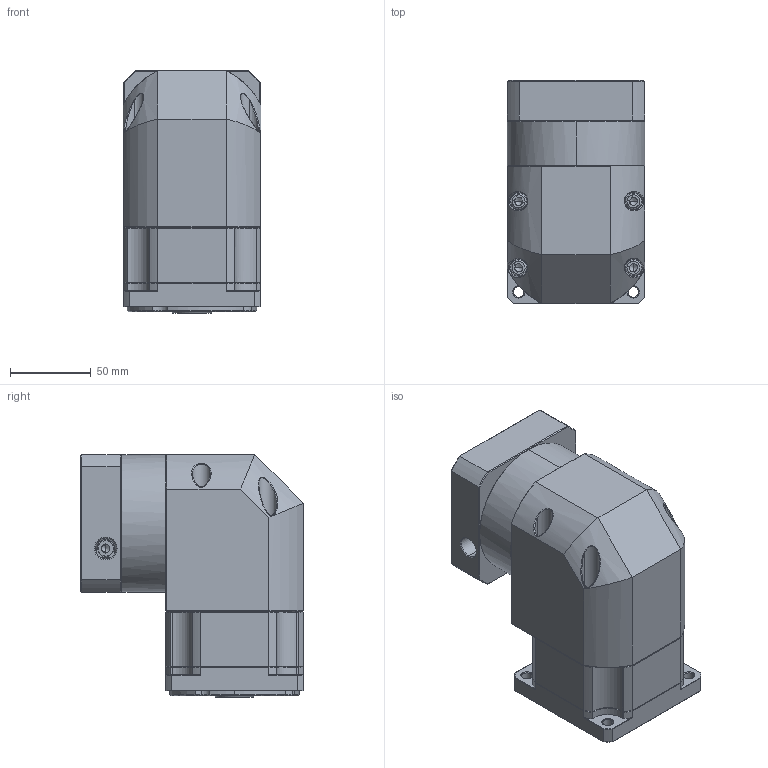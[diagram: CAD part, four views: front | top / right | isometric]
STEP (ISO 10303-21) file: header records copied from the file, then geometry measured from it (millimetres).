
FILE_DESCRIPTION (( 'STEP AP214' ), '1' );
FILE_NAME ('ZBR090-K15-L1-P2-14-60-75-M6.step', '2023-08-19T02:08:50', ( '' ), ( '' ), 'SwSTEP 2.0', 'SolidWorks 2016', '' );
FILE_SCHEMA (( 'AUTOMOTIVE_DESIGN' ));
Length unit declared in the file: millimetre
Products named in the file (1): ZBR090-K15-L1-P2-14-60-75-M6
Bounding box: 85 x 137.6 x 150 mm (x, y, z)
Volume: 1174291.3 mm3; surface area: 127832.7 mm2
Topology: 5 solids, 5 shells, 2357 faces, 6150 edges, 3883 vertices
Faces by surface type: plane 1169, bspline 414, cylinder 412, cone 338, torus 24
Entity records: 124072 total; most frequent: CARTESIAN_POINT 43726, ORIENTED_EDGE 12228, DIRECTION 9763, EDGE_CURVE 6114, VECTOR 3953, LINE 3953, VERTEX_POINT 3883, AXIS2_PLACEMENT_3D 2905
